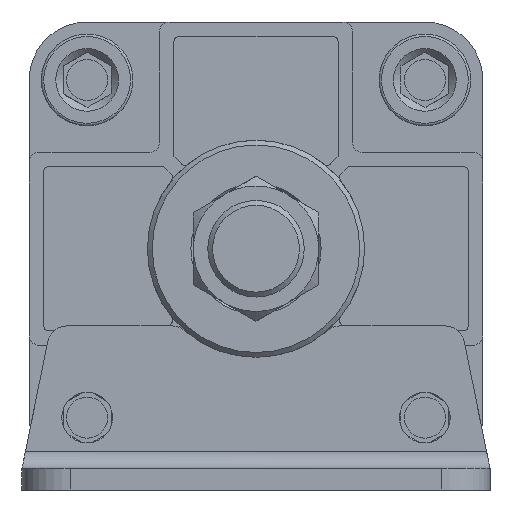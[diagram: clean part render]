
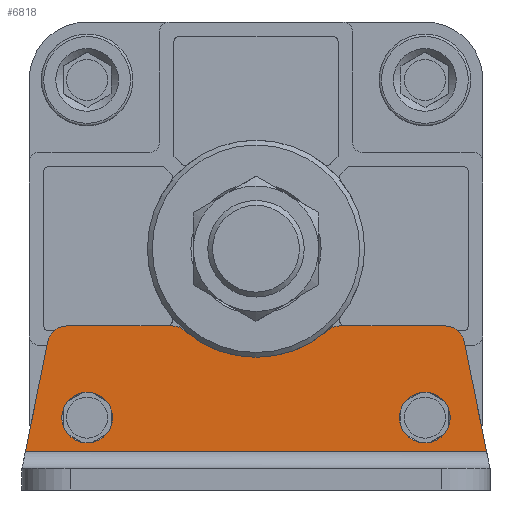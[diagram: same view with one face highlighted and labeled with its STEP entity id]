
A CAD part, front view. The second image highlights one B-rep face of the part: STEP entity #6818.
In plain terms, the highlighted planar face has unit normal (0, -1, 0).
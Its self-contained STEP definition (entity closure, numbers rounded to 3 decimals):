
#572=LINE('',#10163,#978);
#576=LINE('',#10172,#982);
#578=LINE('',#10178,#984);
#582=LINE('',#10189,#988);
#586=LINE('',#10203,#992);
#978=VECTOR('',#8655,1000.);
#982=VECTOR('',#8661,1000.);
#984=VECTOR('',#8667,1000.);
#988=VECTOR('',#8675,1000.);
#992=VECTOR('',#8687,1000.);
#2134=ORIENTED_EDGE('',*,*,#2985,.F.);
#2135=ORIENTED_EDGE('',*,*,#2986,.T.);
#2136=ORIENTED_EDGE('',*,*,#2981,.F.);
#2137=ORIENTED_EDGE('',*,*,#2987,.T.);
#2138=ORIENTED_EDGE('',*,*,#2976,.F.);
#2139=ORIENTED_EDGE('',*,*,#2988,.T.);
#2140=ORIENTED_EDGE('',*,*,#2973,.F.);
#2141=ORIENTED_EDGE('',*,*,#2989,.T.);
#2142=ORIENTED_EDGE('',*,*,#2969,.F.);
#2143=ORIENTED_EDGE('',*,*,#2990,.T.);
#2144=ORIENTED_EDGE('',*,*,#2991,.T.);
#2145=ORIENTED_EDGE('',*,*,#2992,.T.);
#2969=EDGE_CURVE('',#3499,#3500,#572,.T.);
#2973=EDGE_CURVE('',#3503,#3504,#576,.T.);
#2976=EDGE_CURVE('',#3506,#3507,#578,.T.);
#2981=EDGE_CURVE('',#3511,#3512,#582,.T.);
#2985=EDGE_CURVE('',#3515,#3516,#3803,.T.);
#2986=EDGE_CURVE('',#3515,#3512,#3804,.T.);
#2987=EDGE_CURVE('',#3511,#3507,#3805,.T.);
#2988=EDGE_CURVE('',#3506,#3504,#586,.F.);
#2989=EDGE_CURVE('',#3503,#3500,#3806,.T.);
#2990=EDGE_CURVE('',#3499,#3516,#3807,.T.);
#2991=EDGE_CURVE('',#3517,#3517,#3808,.T.);
#2992=EDGE_CURVE('',#3518,#3518,#3809,.T.);
#3499=VERTEX_POINT('',#10162);
#3500=VERTEX_POINT('',#10164);
#3503=VERTEX_POINT('',#10171);
#3504=VERTEX_POINT('',#10173);
#3506=VERTEX_POINT('',#10179);
#3507=VERTEX_POINT('',#10180);
#3511=VERTEX_POINT('',#10190);
#3512=VERTEX_POINT('',#10191);
#3515=VERTEX_POINT('',#10199);
#3516=VERTEX_POINT('',#10200);
#3517=VERTEX_POINT('',#10207);
#3518=VERTEX_POINT('',#10209);
#3803=CIRCLE('',#7347,22.5);
#3804=CIRCLE('',#7348,4.);
#3805=CIRCLE('',#7349,4.);
#3806=CIRCLE('',#7350,4.);
#3807=CIRCLE('',#7351,4.);
#3808=CIRCLE('',#7352,5.25);
#3809=CIRCLE('',#7353,5.25);
#4142=EDGE_LOOP('',(#2134,#2135,#2136,#2137,#2138,#2139,#2140,#2141,#2142,
#2143));
#4143=EDGE_LOOP('',(#2144));
#4144=EDGE_LOOP('',(#2145));
#4536=FACE_BOUND('',#4142,.T.);
#4537=FACE_BOUND('',#4143,.T.);
#4538=FACE_BOUND('',#4144,.T.);
#4771=PLANE('',#7346);
#6818=ADVANCED_FACE('',(#4536,#4537,#4538),#4771,.T.);
#7346=AXIS2_PLACEMENT_3D('',#10197,#8679,#8680);
#7347=AXIS2_PLACEMENT_3D('',#10198,#8681,#8682);
#7348=AXIS2_PLACEMENT_3D('',#10201,#8683,#8684);
#7349=AXIS2_PLACEMENT_3D('',#10202,#8685,#8686);
#7350=AXIS2_PLACEMENT_3D('',#10204,#8688,#8689);
#7351=AXIS2_PLACEMENT_3D('',#10205,#8690,#8691);
#7352=AXIS2_PLACEMENT_3D('',#10206,#8692,#8693);
#7353=AXIS2_PLACEMENT_3D('',#10208,#8694,#8695);
#8655=DIRECTION('',(1.,0.,0.));
#8661=DIRECTION('',(0.199,0.,-0.98));
#8667=DIRECTION('',(0.199,0.,0.98));
#8675=DIRECTION('',(1.,0.,0.));
#8679=DIRECTION('',(0.,-1.,0.));
#8680=DIRECTION('',(0.,0.,-1.));
#8681=DIRECTION('',(0.,-1.,0.));
#8682=DIRECTION('',(0.,0.,-1.));
#8683=DIRECTION('',(0.,-1.,0.));
#8684=DIRECTION('',(0.,0.,-1.));
#8685=DIRECTION('',(0.,-1.,0.));
#8686=DIRECTION('',(0.,0.,-1.));
#8687=DIRECTION('',(-1.,0.,0.));
#8688=DIRECTION('',(0.,-1.,0.));
#8689=DIRECTION('',(0.,0.,-1.));
#8690=DIRECTION('',(0.,-1.,0.));
#8691=DIRECTION('',(0.,0.,-1.));
#8692=DIRECTION('',(0.,1.,0.));
#8693=DIRECTION('',(1.,0.,0.));
#8694=DIRECTION('',(0.,1.,0.));
#8695=DIRECTION('',(1.,0.,0.));
#10162=CARTESIAN_POINT('',(17.385,-4.5,-16.));
#10163=CARTESIAN_POINT('',(-16.771,-4.5,-16.));
#10164=CARTESIAN_POINT('',(39.232,-4.5,-16.));
#10171=CARTESIAN_POINT('',(43.151,-4.5,-19.203));
#10172=CARTESIAN_POINT('',(42.5,-4.5,-16.));
#10173=CARTESIAN_POINT('',(47.788,-4.5,-42.));
#10178=CARTESIAN_POINT('',(-42.5,-4.5,-16.));
#10179=CARTESIAN_POINT('',(-47.788,-4.5,-42.));
#10180=CARTESIAN_POINT('',(-43.151,-4.5,-19.203));
#10189=CARTESIAN_POINT('',(-16.771,-4.5,-16.));
#10190=CARTESIAN_POINT('',(-39.232,-4.5,-16.));
#10191=CARTESIAN_POINT('',(-17.385,-4.5,-16.));
#10197=CARTESIAN_POINT('',(0.,-4.5,-1.));
#10198=CARTESIAN_POINT('',(0.,-4.5,0.));
#10199=CARTESIAN_POINT('',(-14.761,-4.5,-16.981));
#10200=CARTESIAN_POINT('',(14.761,-4.5,-16.981));
#10201=CARTESIAN_POINT('',(-17.385,-4.5,-20.));
#10202=CARTESIAN_POINT('',(-39.232,-4.5,-20.));
#10203=CARTESIAN_POINT('',(0.,-4.5,-42.));
#10204=CARTESIAN_POINT('',(39.232,-4.5,-20.));
#10205=CARTESIAN_POINT('',(17.385,-4.5,-20.));
#10206=CARTESIAN_POINT('',(-35.,-4.5,-35.));
#10207=CARTESIAN_POINT('',(-29.75,-4.5,-35.));
#10208=CARTESIAN_POINT('',(35.,-4.5,-35.));
#10209=CARTESIAN_POINT('',(40.25,-4.5,-35.));
